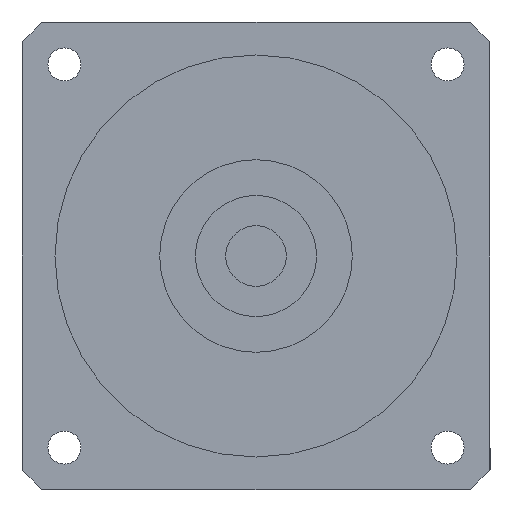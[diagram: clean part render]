
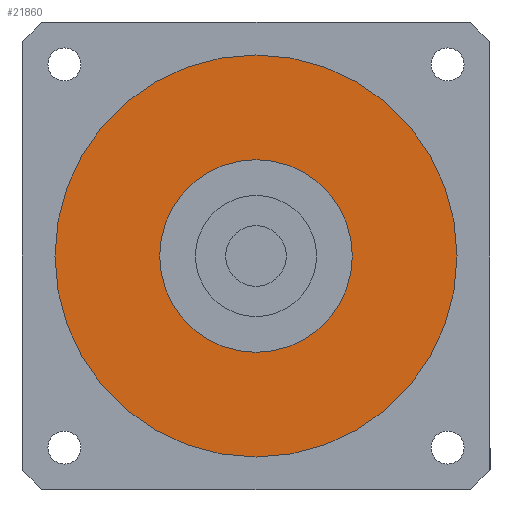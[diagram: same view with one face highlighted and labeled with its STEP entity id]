
A CAD part, left-side view. The second image highlights one B-rep face of the part: STEP entity #21860.
In plain terms, the highlighted planar face has unit normal (-1, 0, 0) as drawn and (0, 0, -1) by its records, which use the part's own axes.
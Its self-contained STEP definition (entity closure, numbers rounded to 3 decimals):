
#21280=CARTESIAN_POINT('',(-36.51,0.,-59.5));
#21290=VERTEX_POINT('',#21280);
#21380=CARTESIAN_POINT('',(36.51,0.,-59.5));
#21390=VERTEX_POINT('',#21380);
#21420=CARTESIAN_POINT('',(0.,0.,
-59.5));
#21430=DIRECTION('',(0.,0.,1.));
#21440=DIRECTION('',(0.,-1.,0.));
#21450=AXIS2_PLACEMENT_3D('',#21420,#21430,#21440);
#21460=CIRCLE('',#21450,36.51);
#21470=CARTESIAN_POINT('',(0.,-36.51,-59.5));
#21480=VERTEX_POINT('',#21470);
#21490=EDGE_CURVE('',#21480,#21390,#21460,.T.);
#21510=EDGE_CURVE('',#21290,#21480,#21460,.T.);
#21560=CARTESIAN_POINT('',(0.,0.,
-59.5));
#21570=DIRECTION('',(0.,0.,1.));
#21580=DIRECTION('',(-1.,0.,0.));
#21590=AXIS2_PLACEMENT_3D('',#21560,#21570,#21580);
#21600=PLANE('',#21590);
#21610=ORIENTED_EDGE('',*,*,#21490,.F.);
#21620=EDGE_CURVE('',#21390,#21290,#21460,.T.);
#21630=ORIENTED_EDGE('',*,*,#21620,.F.);
#21640=ORIENTED_EDGE('',*,*,#21510,.F.);
#21650=EDGE_LOOP('',(#21640,#21630,#21610));
#21660=FACE_OUTER_BOUND('',#21650,.T.);
#21670=CARTESIAN_POINT('',(0.,0.,
-59.5));
#21680=DIRECTION('',(0.,0.,1.));
#21690=DIRECTION('',(0.,-1.,0.));
#21700=AXIS2_PLACEMENT_3D('',#21670,#21680,#21690);
#21710=CIRCLE('',#21700,17.5);
#21720=CARTESIAN_POINT('',(17.5,0.,-59.5));
#21730=VERTEX_POINT('',#21720);
#21740=CARTESIAN_POINT('',(-17.5,0.,-59.5));
#21750=VERTEX_POINT('',#21740);
#21760=EDGE_CURVE('',#21730,#21750,#21710,.T.);
#21770=ORIENTED_EDGE('',*,*,#21760,.T.);
#21780=CARTESIAN_POINT('',(0.,-17.5,-59.5));
#21790=VERTEX_POINT('',#21780);
#21800=EDGE_CURVE('',#21790,#21730,#21710,.T.);
#21810=ORIENTED_EDGE('',*,*,#21800,.T.);
#21820=EDGE_CURVE('',#21750,#21790,#21710,.T.);
#21830=ORIENTED_EDGE('',*,*,#21820,.T.);
#21840=EDGE_LOOP('',(#21830,#21810,#21770));
#21850=FACE_BOUND('',#21840,.T.);
#21860=ADVANCED_FACE('',(#21660,#21850),#21600,.F.);
